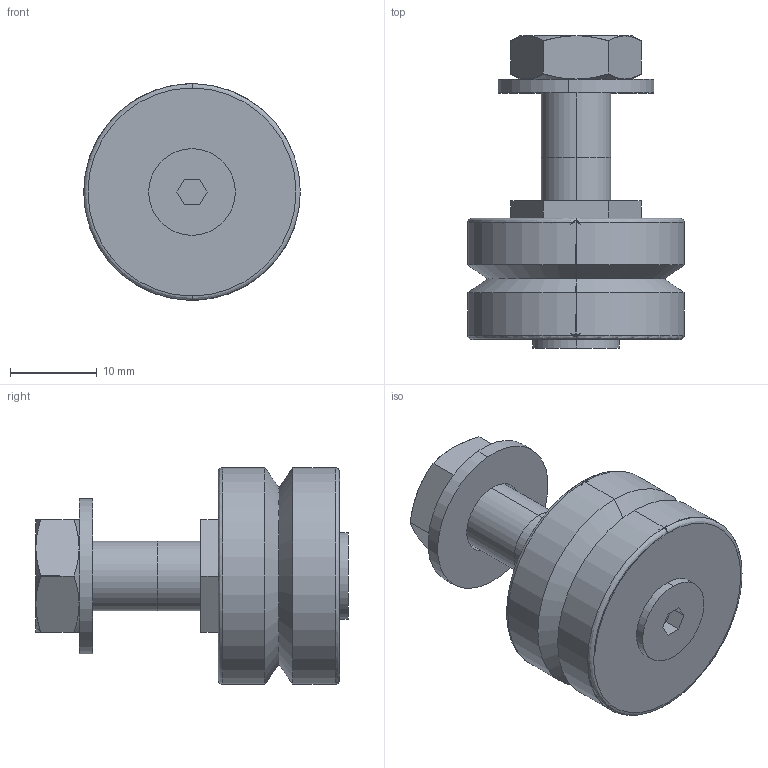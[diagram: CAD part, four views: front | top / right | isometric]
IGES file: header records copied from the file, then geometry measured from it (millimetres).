
Start section: 3D InterOp IGES (Version 21 0 1), Spatial Corp. Copyright (c) 1999-2007.
Global section: file name: NAL-25-C.igs; native system: Spatial Corp.; preprocessor: 3D InterOp GENERIC/IGES 3.0; author: Noname; organization: Noname; date: 20220311.163131; units: millimetre
Bounding box: 25 x 36.05 x 25 mm (x, y, z)
Surface area: 4574.5 mm2 (no closed solid volume)
Topology: 0 solids, 0 shells, 69 faces, 308 edges, 300 vertices
Faces by surface type: revolution 42, extrusion 27
